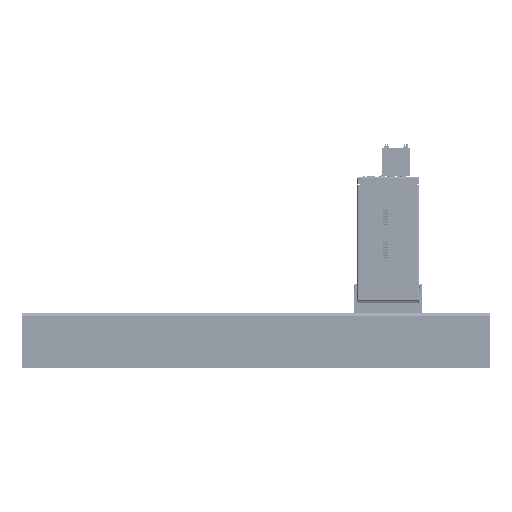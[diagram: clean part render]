
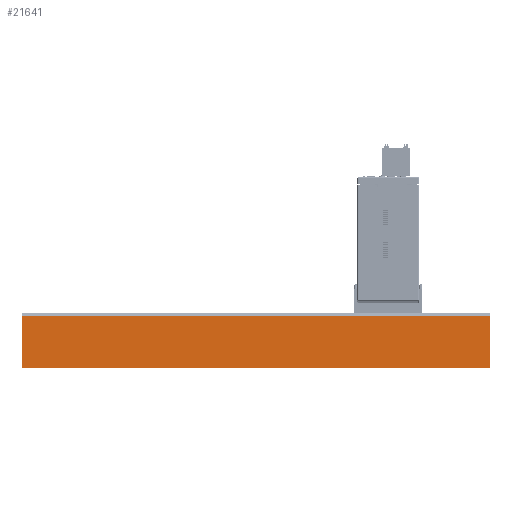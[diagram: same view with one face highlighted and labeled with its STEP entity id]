
A CAD part, left-side view. The second image highlights one B-rep face of the part: STEP entity #21641.
In plain terms, the highlighted planar face has unit normal (-1, 0, 0).
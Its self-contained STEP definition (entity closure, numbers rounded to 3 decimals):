
#11895=PLANE('',#195129);
#21641=ADVANCED_FACE('',(#31269),#11895,.T.);
#31269=FACE_OUTER_BOUND('',#41969,.T.);
#41969=EDGE_LOOP('',(#135695,#135696,#135697,#135698));
#62083=LINE('',#325077,#80420);
#62084=LINE('',#325080,#80421);
#62085=LINE('',#325082,#80422);
#62086=LINE('',#325084,#80423);
#80420=VECTOR('',#242751,1.);
#80421=VECTOR('',#242752,1.);
#80422=VECTOR('',#242753,1.);
#80423=VECTOR('',#242754,1.);
#135695=ORIENTED_EDGE('',*,*,#178983,.T.);
#135696=ORIENTED_EDGE('',*,*,#178984,.F.);
#135697=ORIENTED_EDGE('',*,*,#178985,.T.);
#135698=ORIENTED_EDGE('',*,*,#178986,.F.);
#153421=VERTEX_POINT('',#325078);
#153422=VERTEX_POINT('',#325079);
#153423=VERTEX_POINT('',#325081);
#153424=VERTEX_POINT('',#325083);
#178983=EDGE_CURVE('',#153421,#153422,#62083,.T.);
#178984=EDGE_CURVE('',#153423,#153422,#62084,.T.);
#178985=EDGE_CURVE('',#153423,#153424,#62085,.T.);
#178986=EDGE_CURVE('',#153421,#153424,#62086,.T.);
#195129=AXIS2_PLACEMENT_3D('',#325085,#242755,#242756);
#242751=DIRECTION('',(0.,-1.,0.));
#242752=DIRECTION('',(0.,0.,-1.));
#242753=DIRECTION('',(0.,1.,0.));
#242754=DIRECTION('',(0.,0.,1.));
#242755=DIRECTION('',(-1.,0.,0.));
#242756=DIRECTION('',(0.,0.,1.));
#325077=CARTESIAN_POINT('',(870.05,67.12,-26.5));
#325078=CARTESIAN_POINT('',(870.05,89.26,-26.5));
#325079=CARTESIAN_POINT('',(870.05,-136.74,-26.5));
#325080=CARTESIAN_POINT('',(870.05,-136.74,0.));
#325081=CARTESIAN_POINT('',(870.05,-136.74,-1.1));
#325082=CARTESIAN_POINT('',(870.05,151.369,-1.1));
#325083=CARTESIAN_POINT('',(870.05,89.26,-1.1));
#325084=CARTESIAN_POINT('',(870.05,89.26,-216.212));
#325085=CARTESIAN_POINT('',(870.05,151.369,0.));
